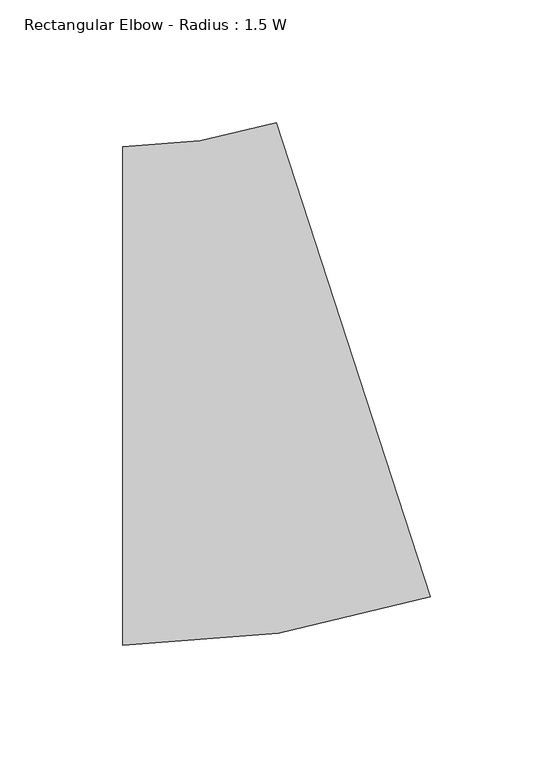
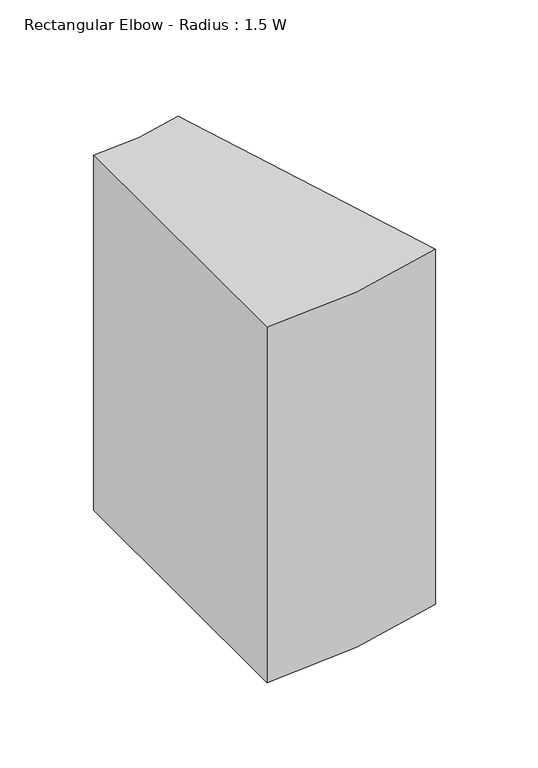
"""IFC4 building model written with IfcOpenShell, lengths in millimetres: duct fitting geometry, Rectangular Elbow - Radius : 1.5 W."""

from ifc_helpers import new_model, si_unit, point, frame, frame_2d, origin, place, context, project, spatial, polyline, circle_curve, trimmed, segment, composite_curve, outline, extrude, source, transform, mapped, element, save


def rectangular_elbow_radius_1_5_w_3731340f(model_context):
    return source(origin(), model_context, "Body", "SweptSolid", [
        extrude(outline(composite_curve([segment(trimmed(circle_curve(frame_2d((-48.2309518, 304.8)), 406.4), [point((77.2431395, -81.7452269))], [point((-48.2309518, -101.6))], False, "CARTESIAN"), True, "CONTINUOUS"), segment(polyline([(-48.2309518, -101.6), (-48.2309518, 101.6)]), True, "CONTINUOUS"), segment(trimmed(circle_curve(frame_2d((-48.2309518, 304.8)), 203.2), [point((-48.2309518, 101.6))], [point((14.5060938, 111.5273866))], True, "CARTESIAN"), True, "CONTINUOUS"), segment(polyline([(14.5060938, 111.5273866), (77.2431395, -81.7452269)]), True, "CONTINUOUS")], self_intersect=False)), frame((0.0, 0.0, -127.0), z_axis=(0.0, 0.0, 1.0), x_axis=(1.0, 0.0, 0.0)), (0.0, 0.0, 1.0), 254.0),
    ])


if __name__ == "__main__":
    model = new_model("IFC4")
    model_context = context("Model", 3, world=origin())
    ifc_project = project(units=[si_unit("LENGTHUNIT", "METRE", prefix="MILLI")], contexts=[model_context])
    site = spatial("IfcSite", under=ifc_project)
    building = spatial("IfcBuilding", under=site)
    placement = place(None, origin())
    rectangular_elbow_radius_1_5_w_shape = rectangular_elbow_radius_1_5_w_3731340f(model_context)
    element("IfcDuctFitting", 1, ObjectType="Rectangular Elbow - Radius : 1.5 W", at=placement, inside=building, context=model_context, shape_type="MappedRepresentation", body=[
        mapped(rectangular_elbow_radius_1_5_w_shape, transform((0.0, 0.0, 0.0), x_axis=(1.0, 0.0, 0.0), y_axis=(0.0, 1.0, 0.0), z_axis=(0.0, 0.0, 1.0))),
    ])
    save(model, "model.ifc")
